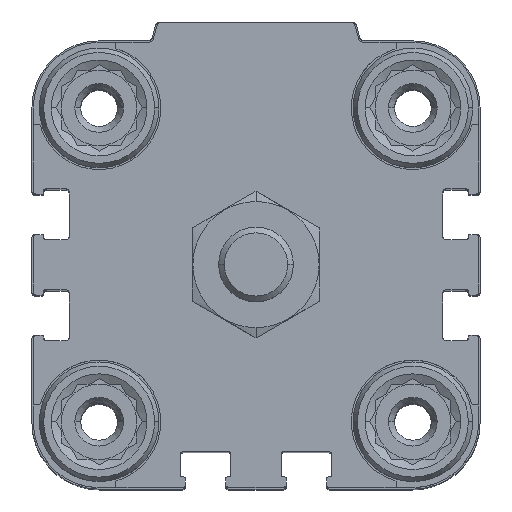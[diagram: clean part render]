
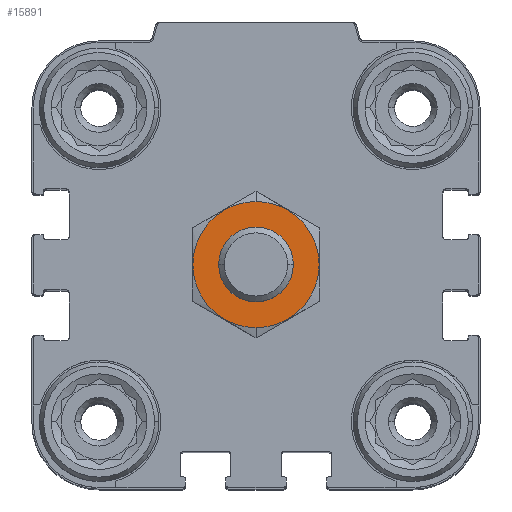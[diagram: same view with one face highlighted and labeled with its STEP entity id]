
A CAD part, top view. The second image highlights one B-rep face of the part: STEP entity #15891.
In plain terms, the highlighted planar face has unit normal (0, 0, 1).
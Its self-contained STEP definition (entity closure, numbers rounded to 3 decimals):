
#724 = DIRECTION ( 'NONE',  ( 0., 0., -1. ) ) ;
#1153 = DIRECTION ( 'NONE',  ( 0., 0., -1. ) ) ;
#1323 = VERTEX_POINT ( 'NONE', #8688 ) ;
#1926 = AXIS2_PLACEMENT_3D ( 'NONE', #20835, #724, #19004 ) ;
#2546 = VERTEX_POINT ( 'NONE', #5713 ) ;
#3572 = ORIENTED_EDGE ( 'NONE', *, *, #8718, .T. ) ;
#3708 = CARTESIAN_POINT ( 'NONE',  ( 0., 0., 15.5 ) ) ;
#5713 = CARTESIAN_POINT ( 'NONE',  ( 0., -8.45, 15.5 ) ) ;
#5933 = EDGE_CURVE ( 'NONE', #2546, #12471, #9793, .T. ) ;
#7293 = EDGE_LOOP ( 'NONE', ( #3572, #8177 ) ) ;
#7990 = CARTESIAN_POINT ( 'NONE',  ( 0., 5., 15.5 ) ) ;
#8177 = ORIENTED_EDGE ( 'NONE', *, *, #11401, .T. ) ;
#8517 = CIRCLE ( 'NONE', #1926, 5. ) ;
#8688 = CARTESIAN_POINT ( 'NONE',  ( 0., -5., 15.5 ) ) ;
#8718 = EDGE_CURVE ( 'NONE', #20599, #1323, #14712, .T. ) ;
#9000 = EDGE_LOOP ( 'NONE', ( #17219, #13121 ) ) ;
#9426 = DIRECTION ( 'NONE',  ( 0., 0., -1. ) ) ;
#9793 = CIRCLE ( 'NONE', #23416, 8.45 ) ;
#11072 = DIRECTION ( 'NONE',  ( 0., 0., -1. ) ) ;
#11256 = EDGE_CURVE ( 'NONE', #12471, #2546, #22945, .T. ) ;
#11401 = EDGE_CURVE ( 'NONE', #1323, #20599, #8517, .T. ) ;
#12471 = VERTEX_POINT ( 'NONE', #15140 ) ;
#12570 = CARTESIAN_POINT ( 'NONE',  ( 0., 0., 15.5 ) ) ;
#12898 = FACE_OUTER_BOUND ( 'NONE', #9000, .T. ) ;
#13121 = ORIENTED_EDGE ( 'NONE', *, *, #11256, .F. ) ;
#14712 = CIRCLE ( 'NONE', #15500, 5. ) ;
#14870 = DIRECTION ( 'NONE',  ( 0., -1., 0. ) ) ;
#15095 = CARTESIAN_POINT ( 'NONE',  ( 0., 0., 15.5 ) ) ;
#15140 = CARTESIAN_POINT ( 'NONE',  ( 0., 8.45, 15.5 ) ) ;
#15500 = AXIS2_PLACEMENT_3D ( 'NONE', #17849, #1153, #23447 ) ;
#15891 = ADVANCED_FACE ( 'NONE', ( #12898, #23980 ), #22283, .F. ) ;
#17040 = DIRECTION ( 'NONE',  ( 0., 0., -1. ) ) ;
#17219 = ORIENTED_EDGE ( 'NONE', *, *, #5933, .F. ) ;
#17849 = CARTESIAN_POINT ( 'NONE',  ( 0., 0., 15.5 ) ) ;
#19004 = DIRECTION ( 'NONE',  ( 0., -1., 0. ) ) ;
#20451 = DIRECTION ( 'NONE',  ( 0., -1., 0. ) ) ;
#20599 = VERTEX_POINT ( 'NONE', #7990 ) ;
#20835 = CARTESIAN_POINT ( 'NONE',  ( 0., 0., 15.5 ) ) ;
#22107 = DIRECTION ( 'NONE',  ( 0., -1., 0. ) ) ;
#22153 = AXIS2_PLACEMENT_3D ( 'NONE', #12570, #11072, #14870 ) ;
#22283 = PLANE ( 'NONE',  #23315 ) ;
#22945 = CIRCLE ( 'NONE', #22153, 8.45 ) ;
#23315 = AXIS2_PLACEMENT_3D ( 'NONE', #15095, #17040, #20451 ) ;
#23416 = AXIS2_PLACEMENT_3D ( 'NONE', #3708, #9426, #22107 ) ;
#23447 = DIRECTION ( 'NONE',  ( 0., -1., 0. ) ) ;
#23980 = FACE_BOUND ( 'NONE', #7293, .T. ) ;
